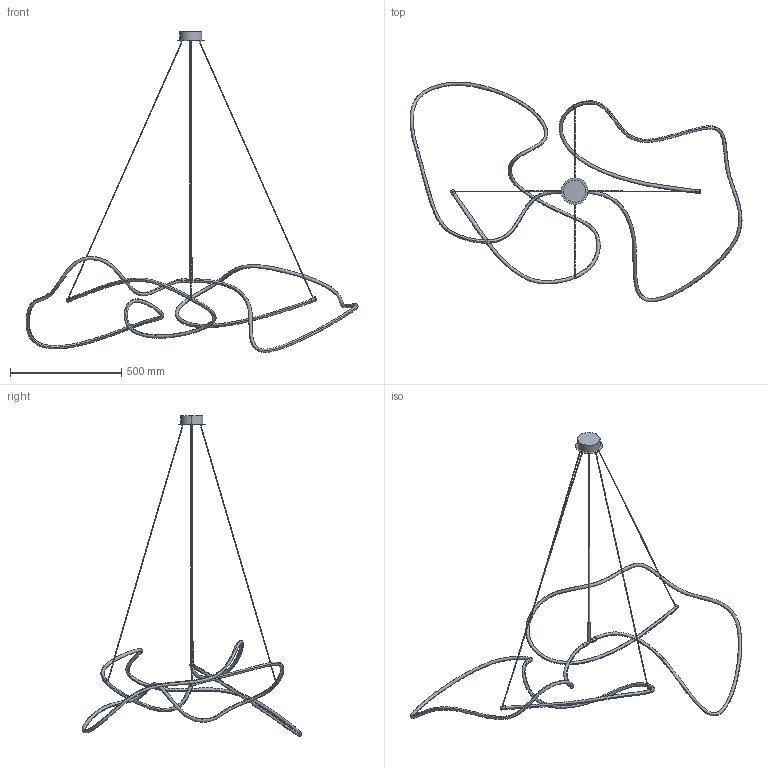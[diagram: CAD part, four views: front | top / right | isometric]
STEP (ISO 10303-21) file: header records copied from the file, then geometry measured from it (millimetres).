
FILE_DESCRIPTION(/* description */ (''),/* implementation_level */ '2;1');
FILE_NAME(/* name */ 'Kinoko Chandelier Medio',/* time_stamp */ '2023-01-16T09:45:38+01:00',/* author */ (''),/* organization */ (''),/* preprocessor_version */ 'ST-DEVELOPER v15',/* originating_system */ '',/* authorisation */ '');
FILE_SCHEMA (('AUTOMOTIVE_DESIGN'));
Length unit declared in the file: millimetre
Products named in the file (1): Document
Bounding box: 1489.96 x 986.29 x 1439.59 mm (x, y, z)
Volume: 462986 mm3; surface area: 486450.6 mm2
Topology: 21 solids, 23 shells, 88 faces, 144 edges, 100 vertices
Faces by surface type: bspline 46, plane 42
Entity records: 10836 total; most frequent: CARTESIAN_POINT 9826, ORIENTED_EDGE 268, EDGE_CURVE 138, VERTEX_POINT 92, ADVANCED_FACE 88, FACE_OUTER_BOUND 88, EDGE_LOOP 88, DIRECTION 50
